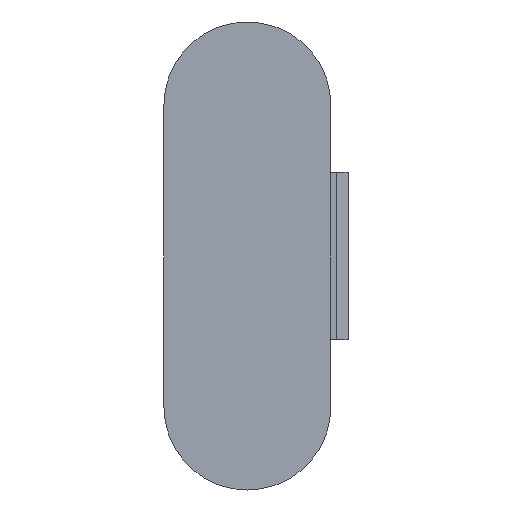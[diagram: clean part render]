
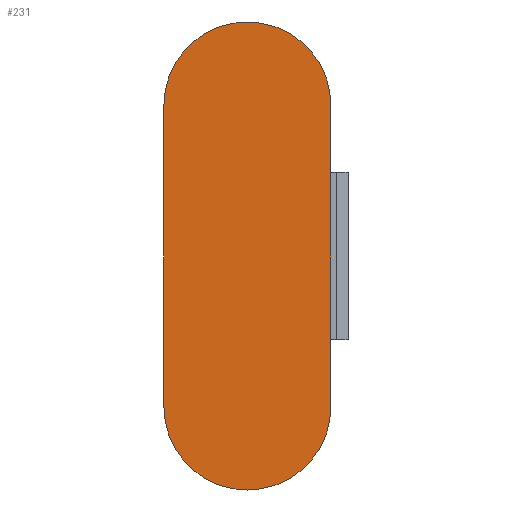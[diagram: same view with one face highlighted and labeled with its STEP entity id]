
A CAD part, front view. The second image highlights one B-rep face of the part: STEP entity #231.
In plain terms, the highlighted planar face has unit normal (0, -1, 0).
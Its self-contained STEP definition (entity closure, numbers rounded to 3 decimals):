
#127=CARTESIAN_POINT('',(176.509,211.107,4.5));
#128=VERTEX_POINT('',#127);
#129=CARTESIAN_POINT('',(176.509,211.107,-4.5));
#130=VERTEX_POINT('',#129);
#131=CARTESIAN_POINT('',(176.509,211.107,4.5));
#132=DIRECTION('',(0.0,0.0,-1.0));
#133=VECTOR('',#132,9.);
#134=LINE('',#131,#133);
#135=EDGE_CURVE('',#128,#130,#134,.T.);
#158=CARTESIAN_POINT('',(171.509,211.107,-4.5));
#159=VERTEX_POINT('',#158);
#160=CARTESIAN_POINT('',(174.009,211.107,-4.5));
#161=DIRECTION('',(0.0,1.0,0.0));
#162=DIRECTION('',(1.0,0.0,0.0));
#163=AXIS2_PLACEMENT_3D('',#160,#161,#162);
#164=CIRCLE('',#163,2.5);
#165=EDGE_CURVE('',#130,#159,#164,.T.);
#183=CARTESIAN_POINT('',(171.509,211.107,4.5));
#184=VERTEX_POINT('',#183);
#185=CARTESIAN_POINT('',(171.509,211.107,-4.5));
#186=DIRECTION('',(0.0,0.0,1.0));
#187=VECTOR('',#186,9.);
#188=LINE('',#185,#187);
#189=EDGE_CURVE('',#159,#184,#188,.T.);
#207=CARTESIAN_POINT('',(174.009,211.107,4.5));
#208=DIRECTION('',(0.0,1.0,0.0));
#209=DIRECTION('',(-1.0,0.0,0.0));
#210=AXIS2_PLACEMENT_3D('',#207,#208,#209);
#211=CIRCLE('',#210,2.5);
#212=EDGE_CURVE('',#184,#128,#211,.T.);
#220=CARTESIAN_POINT('',(174.009,211.107,0.));
#221=DIRECTION('',(0.0,1.0,0.0));
#222=DIRECTION('',(0.0,0.0,1.0));
#223=AXIS2_PLACEMENT_3D('',#220,#221,#222);
#224=PLANE('',#223);
#225=ORIENTED_EDGE('',*,*,#135,.F.);
#226=ORIENTED_EDGE('',*,*,#212,.F.);
#227=ORIENTED_EDGE('',*,*,#189,.F.);
#228=ORIENTED_EDGE('',*,*,#165,.F.);
#229=EDGE_LOOP('',(#225,#226,#227,#228));
#230=FACE_OUTER_BOUND('',#229,.T.);
#231=ADVANCED_FACE('',(#230),#224,.F.);
